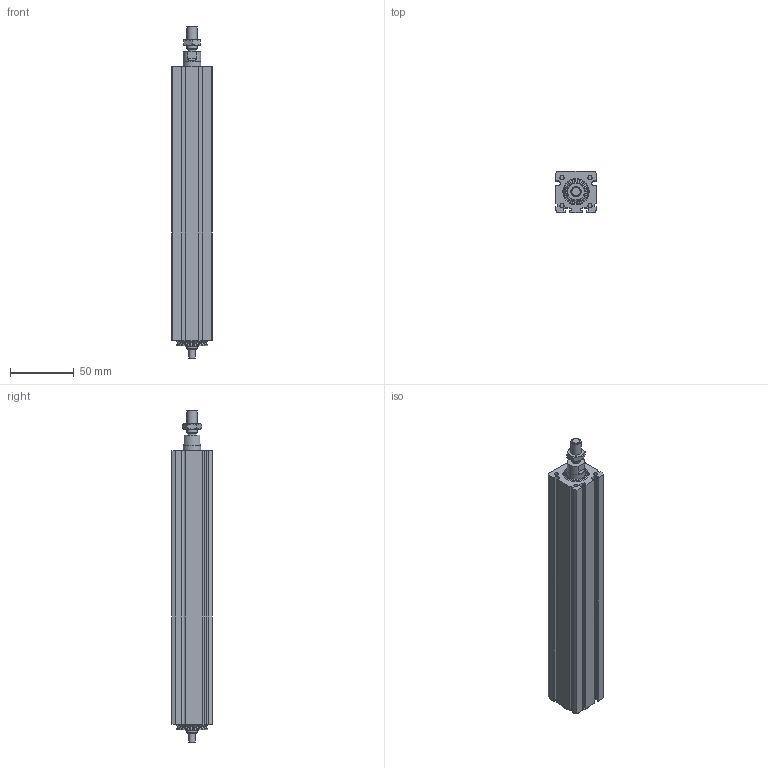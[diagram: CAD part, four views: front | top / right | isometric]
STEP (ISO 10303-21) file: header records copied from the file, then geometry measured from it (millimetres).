
FILE_DESCRIPTION(/* description */ ('STEP AP214'),/* implementation_level */ '2;1');
FILE_NAME(/* name */ 'MCE 32 0802 150 0(0)',/* time_stamp */ '2023-10-05T14:13:47+02:00',/* author */ ('License CC BY-ND 4.0'),/* organization */ ('CADENAS'),/* preprocessor_version */ 'ST-DEVELOPER v19.3',/* originating_system */ 'PARTsolutions',/* authorisation */ ' ');
FILE_SCHEMA (('AUTOMOTIVE_DESIGN {1 0 10303 214 3 1 1}'));
Length unit declared in the file: millimetre
Products named in the file (4): MCE 32 0802 150  0(0); 32_nut; 32(1500)_rod; 32(150)_msc
Assembly tree (3 placements, depth 2):
  MCE 32 0802 150  0(0)
    32_nut
    32(1500)_rod
    32(150)_msc
Bounding box: 32 x 32 x 261 mm (x, y, z)
Volume: 161309 mm3; surface area: 67918.5 mm2
Topology: 3 solids, 3 shells, 205 faces, 503 edges, 326 vertices
Faces by surface type: cylinder 89, plane 88, cone 23, torus 5
Full cylindrical faces by diameter (mm): 2.459 x4, 3.242 x4, 5 x1, 6.5 x1, 6.647 x1, 8 x2, 10 x1, 13.8 x1, 14 x2, 17.46 x1, 19.5 x1, 24.5 x2, 25 x2
Entity records: 6017 total; most frequent: CARTESIAN_POINT 1087, DIRECTION 1064, ORIENTED_EDGE 924, EDGE_CURVE 462, AXIS2_PLACEMENT_3D 419, VERTEX_POINT 324, EDGE_LOOP 268, FACE_BOUND 268
